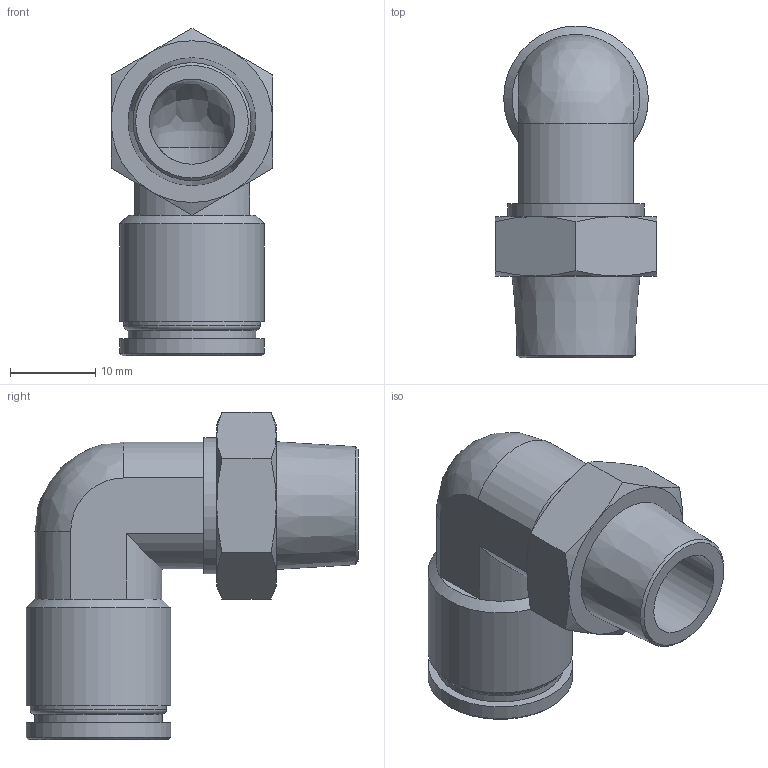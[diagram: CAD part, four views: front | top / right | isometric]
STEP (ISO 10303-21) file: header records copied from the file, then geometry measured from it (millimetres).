
FILE_DESCRIPTION(/* description */ (''),/* implementation_level */ '2;1');
FILE_NAME(/* name */ 'LXH21 0012 B3.stp',/* time_stamp */ '2026-05-01T12:18:37+02:00',/* author */ ('freju'),/* organization */ (''),/* preprocessor_version */ 'ST-DEVELOPER v20.1',/* originating_system */ 'Autodesk Inventor 2026',/* authorisation */ '');
FILE_SCHEMA (('AUTOMOTIVE_DESIGN { 1 0 10303 214 3 1 1 }'));
Length unit declared in the file: millimetre
Products named in the file (1): LXH21 0012 B3
Bounding box: 19 x 39 x 38.47 mm (x, y, z)
Volume: 6265.6 mm3; surface area: 5329.1 mm2
Topology: 1 solids, 1 shells, 49 faces, 108 edges, 65 vertices
Faces by surface type: plane 18, cone 16, cylinder 12, bspline 2, torus 1
Full cylindrical faces by diameter (mm): 10 x2, 12 x1, 15 x1, 16 x2, 17 x2
Entity records: 1385 total; most frequent: CARTESIAN_POINT 303, DIRECTION 230, ORIENTED_EDGE 212, EDGE_CURVE 106, AXIS2_PLACEMENT_3D 100, VERTEX_POINT 65, EDGE_LOOP 57, CIRCLE 50
